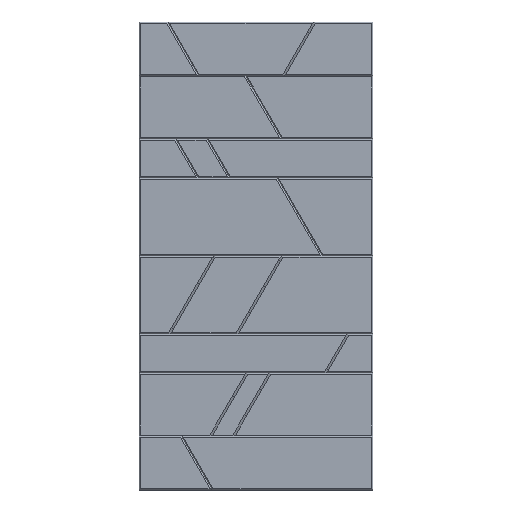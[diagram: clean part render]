
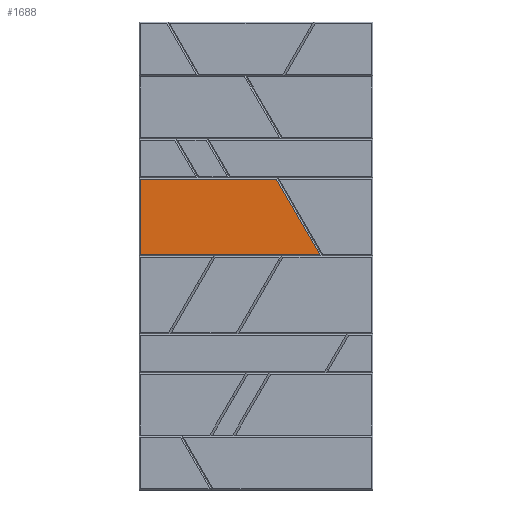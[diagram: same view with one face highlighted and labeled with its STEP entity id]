
A CAD part, top view. The second image highlights one B-rep face of the part: STEP entity #1688.
In plain terms, the highlighted planar face has unit normal (0, 0, 1).
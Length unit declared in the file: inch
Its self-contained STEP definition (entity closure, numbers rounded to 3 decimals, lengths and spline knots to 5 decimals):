
#102=FACE_OUTER_BOUND('',#207,.T.);
#207=EDGE_LOOP('',(#1407,#1408,#1409,#1410));
#258=LINE('',#2348,#487);
#322=LINE('',#2482,#551);
#371=LINE('',#2574,#600);
#434=LINE('',#2694,#663);
#487=VECTOR('',#1888,0.3937);
#551=VECTOR('',#1992,0.3937);
#600=VECTOR('',#2081,0.3937);
#663=VECTOR('',#2220,0.3937);
#711=VERTEX_POINT('',#2345);
#712=VERTEX_POINT('',#2347);
#762=VERTEX_POINT('',#2481);
#785=VERTEX_POINT('',#2572);
#842=EDGE_CURVE('',#712,#711,#258,.T.);
#906=EDGE_CURVE('',#762,#712,#322,.T.);
#955=EDGE_CURVE('',#711,#785,#371,.T.);
#1018=EDGE_CURVE('',#762,#785,#434,.T.);
#1407=ORIENTED_EDGE('',*,*,#842,.T.);
#1408=ORIENTED_EDGE('',*,*,#955,.T.);
#1409=ORIENTED_EDGE('',*,*,#1018,.F.);
#1410=ORIENTED_EDGE('',*,*,#906,.T.);
#1583=PLANE('',#1815);
#1688=ADVANCED_FACE('',(#102),#1583,.T.);
#1815=AXIS2_PLACEMENT_3D('',#2693,#2218,#2219);
#1888=DIRECTION('',(-0.5,0.866,0.));
#1992=DIRECTION('',(1.,0.,0.));
#2081=DIRECTION('',(-1.,0.,0.));
#2218=DIRECTION('center_axis',(0.,0.,1.));
#2219=DIRECTION('ref_axis',(1.,0.,0.));
#2220=DIRECTION('',(0.,1.,0.));
#2345=CARTESIAN_POINT('',(29.22105,64.78849,0.));
#2347=CARTESIAN_POINT('',(38.16998,49.28849,0.));
#2348=CARTESIAN_POINT('',(31.96606,60.03399,0.));
#2481=CARTESIAN_POINT('',(1.30604,49.28849,0.));
#2482=CARTESIAN_POINT('',(37.55604,49.28849,0.));
#2572=CARTESIAN_POINT('',(1.30604,64.78849,0.));
#2574=CARTESIAN_POINT('',(12.55604,64.78849,0.));
#2693=CARTESIAN_POINT('Origin',(25.05604,49.03849,0.));
#2694=CARTESIAN_POINT('',(1.30604,25.03849,0.));
